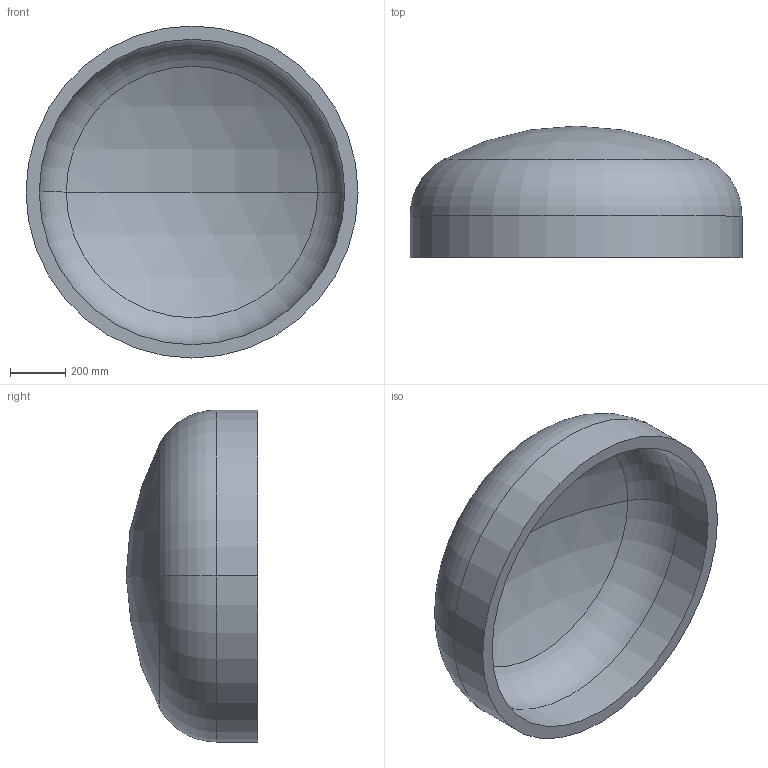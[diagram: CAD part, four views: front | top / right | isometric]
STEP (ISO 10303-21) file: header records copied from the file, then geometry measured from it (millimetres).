
FILE_DESCRIPTION (( 'STEP AP203' ), '1' );
FILE_NAME ('DIN 28013 Korbbogenform_-_Boden DIN 28013 - 1200 x 150 - I - s=48.step', '2016-07-01T09:30:32', ( '' ), ( '' ), 'SwSTEP 2.0', 'SolidWorks 2013', '' );
FILE_SCHEMA (( 'CONFIG_CONTROL_DESIGN' ));
Length unit declared in the file: millimetre
Products named in the file (1): DIN 28013 Korbbogenform_-_Boden DIN 28013 - 1200 x 150 - I - s=48
Bounding box: 1200 x 475.4 x 1200 mm (x, y, z)
Volume: 97462170.6 mm3; surface area: 4239465.8 mm2
Topology: 1 solids, 1 shells, 13 faces, 24 edges, 14 vertices
Faces by surface type: torus 4, cylinder 4, sphere 4, plane 1
Entity records: 407 total; most frequent: DIRECTION 72, CARTESIAN_POINT 52, ORIENTED_EDGE 48, AXIS2_PLACEMENT_3D 34, EDGE_CURVE 24, CIRCLE 20, EDGE_LOOP 14, VERTEX_POINT 14
